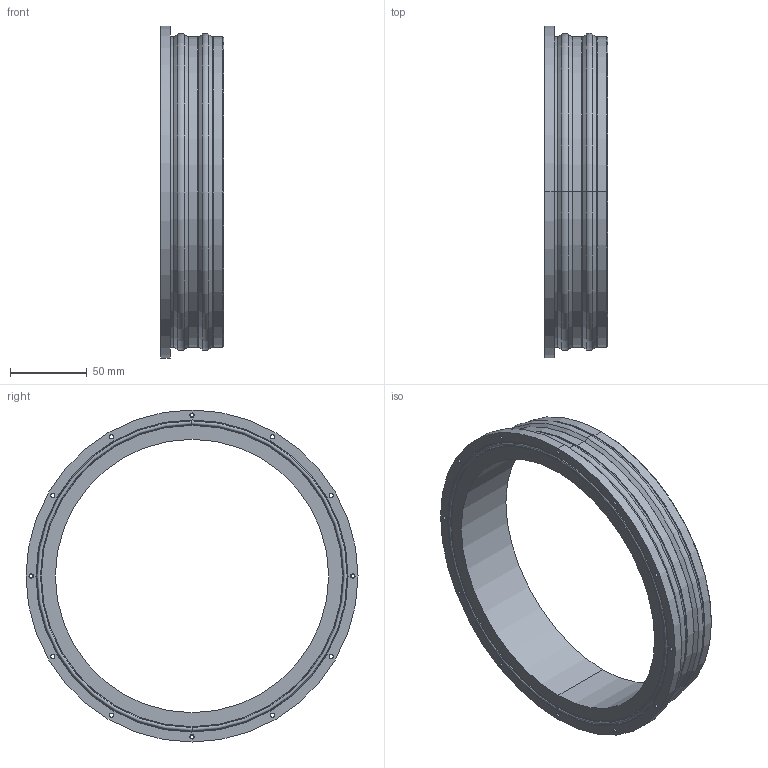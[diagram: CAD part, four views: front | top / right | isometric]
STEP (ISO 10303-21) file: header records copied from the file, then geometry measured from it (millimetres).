
FILE_DESCRIPTION (( 'STEP AP203' ), '1' );
FILE_NAME ('WTE8-M-FLANGE-SEAL-R1.STEP', '2017-03-01T17:47:42', ( '' ), ( '' ), 'SwSTEP 2.0', 'SolidWorks 2014', '' );
FILE_SCHEMA (( 'CONFIG_CONTROL_DESIGN' ));
Length unit declared in the file: millimetre
Products named in the file (1): WTE8-M-FLANGE-SEAL-R1
Bounding box: 41.5 x 215.9 x 215.9 mm (x, y, z)
Volume: 337666.8 mm3; surface area: 78100.7 mm2
Topology: 1 solids, 1 shells, 126 faces, 284 edges, 162 vertices
Faces by surface type: cone 66, cylinder 46, plane 8, torus 6
Entity records: 3585 total; most frequent: DIRECTION 694, CARTESIAN_POINT 565, ORIENTED_EDGE 552, AXIS2_PLACEMENT_3D 291, EDGE_CURVE 276, CIRCLE 164, EDGE_LOOP 162, VERTEX_POINT 162
